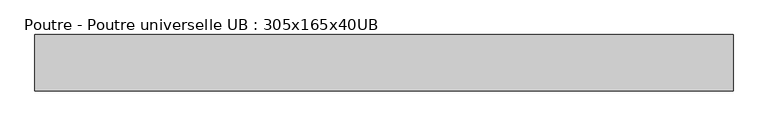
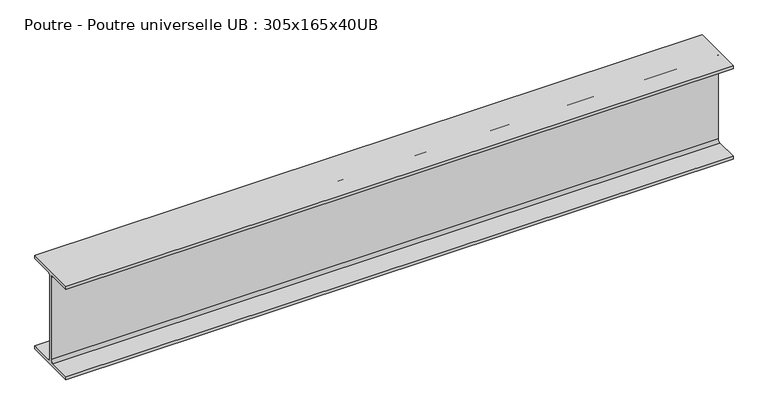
"""IFC4 building model written with IfcOpenShell, lengths in millimetres: beam geometry, Poutre - Poutre universelle UB : 305x165x40UB."""

from ifc_helpers import new_model, si_unit, point, frame, frame_2d, origin, place, context, project, spatial, polyline, circle_curve, trimmed, segment, composite_curve, outline, extrude, source, transform, mapped, element, save


def poutre_poutre_universelle_ub_305x165x40ub_2bbb945a(model_context):
    return source(origin(), model_context, "Body", "SweptSolid", [
        extrude(outline(composite_curve([segment(polyline([(82.5, -141.5), (82.5, -151.7), (-82.5, -151.7), (-82.5, -141.5), (-11.9, -141.5)]), True, "CONTINUOUS"), segment(trimmed(circle_curve(frame_2d((-11.9, -132.6)), 8.9), [point((-11.9, -141.5))], [point((-3.0, -132.6))], True, "CARTESIAN"), True, "CONTINUOUS"), segment(polyline([(-3.0, -132.6), (-3.0, 132.6)]), True, "CONTINUOUS"), segment(trimmed(circle_curve(frame_2d((-11.9, 132.6)), 8.9), [point((-3.0, 132.6))], [point((-11.9, 141.5))], True, "CARTESIAN"), True, "CONTINUOUS"), segment(polyline([(-11.9, 141.5), (-82.5, 141.5), (-82.5, 151.7), (82.5, 151.7), (82.5, 141.5), (11.9, 141.5)]), True, "CONTINUOUS"), segment(trimmed(circle_curve(frame_2d((11.9, 132.6)), 8.9), [point((11.9, 141.5))], [point((3.0, 132.6))], True, "CARTESIAN"), True, "CONTINUOUS"), segment(polyline([(3.0, 132.6), (3.0, -132.6)]), True, "CONTINUOUS"), segment(trimmed(circle_curve(frame_2d((11.9, -132.6)), 8.9), [point((3.0, -132.6))], [point((11.9, -141.5))], True, "CARTESIAN"), True, "CONTINUOUS"), segment(polyline([(11.9, -141.5), (82.5, -141.5)]), True, "CONTINUOUS")], self_intersect=False)), frame((-974.0, 0.0, 0.0), z_axis=(1.0, 0.0, 0.0), x_axis=(0.0, 1.0, 0.0)), (0.0, 0.0, 1.0), 2044.0),
    ])


if __name__ == "__main__":
    model = new_model("IFC4")
    model_context = context("Model", 3, world=origin())
    ifc_project = project(units=[si_unit("LENGTHUNIT", "METRE", prefix="MILLI")], contexts=[model_context])
    site = spatial("IfcSite", under=ifc_project)
    building = spatial("IfcBuilding", under=site)
    placement = place(None, origin())
    poutre_poutre_universelle_ub_305x165x40ub_shape = poutre_poutre_universelle_ub_305x165x40ub_2bbb945a(model_context)
    element("IfcBeam", 1, ObjectType="Poutre - Poutre universelle UB : 305x165x40UB", at=placement, inside=building, context=model_context, shape_type="MappedRepresentation", body=[
        mapped(poutre_poutre_universelle_ub_305x165x40ub_shape, transform((0.0, 0.0, 0.0), x_axis=(1.0, 0.0, 0.0), y_axis=(0.0, 1.0, 0.0), z_axis=(0.0, 0.0, 1.0))),
    ])
    save(model, "model.ifc")
